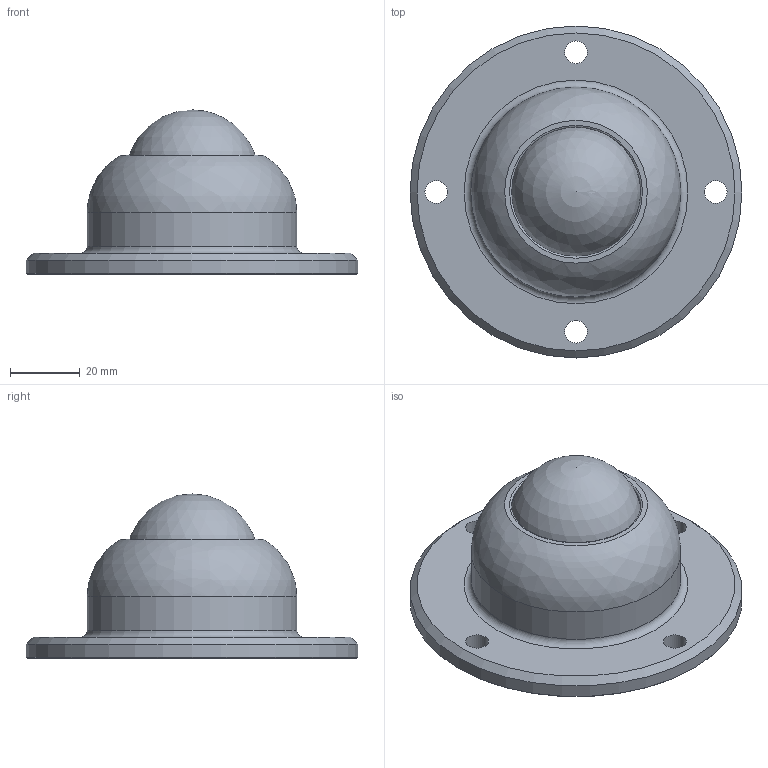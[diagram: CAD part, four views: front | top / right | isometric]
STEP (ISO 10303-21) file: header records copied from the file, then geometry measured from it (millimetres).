
FILE_DESCRIPTION(/* description */ (''),/* implementation_level */ '2;1');
FILE_NAME(/* name */ 'Z:\80-CAD共有ファイル\製品3D\X2\30C730FC30BF\X0\\23-IA-R\IA-38R.stp',/* time_stamp */ '2015-01-06T16:12:51+09:00',/* author */ ('yamaki'),/* organization */ (''),/* preprocessor_version */ 'ST-DEVELOPER v15.6',/* originating_system */ 'Autodesk Inventor 2015',/* authorisation */ '');
FILE_SCHEMA (('AUTOMOTIVE_DESIGN { 1 0 10303 214 3 1 1 }'));
Length unit declared in the file: millimetre
Products named in the file (1): 2338AA
Bounding box: 95 x 95 x 47 mm (x, y, z)
Volume: 112313.3 mm3; surface area: 25306.8 mm2
Topology: 1 solids, 1 shells, 43 faces, 99 edges, 65 vertices
Faces by surface type: cylinder 19, plane 12, cone 5, torus 4, sphere 2, bspline 1
Full cylindrical faces by diameter (mm): 2 x1, 2.5 x2, 6.5 x4, 20 x1, 37 x1, 38 x1, 38.5 x1, 52.2 x1, 60 x1, 95 x1
Entity records: 1136 total; most frequent: DIRECTION 200, CARTESIAN_POINT 191, ORIENTED_EDGE 128, AXIS2_PLACEMENT_3D 94, EDGE_LOOP 83, EDGE_CURVE 64, VERTEX_POINT 55, CIRCLE 51
